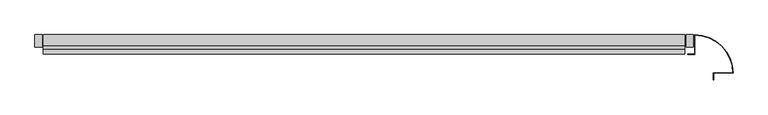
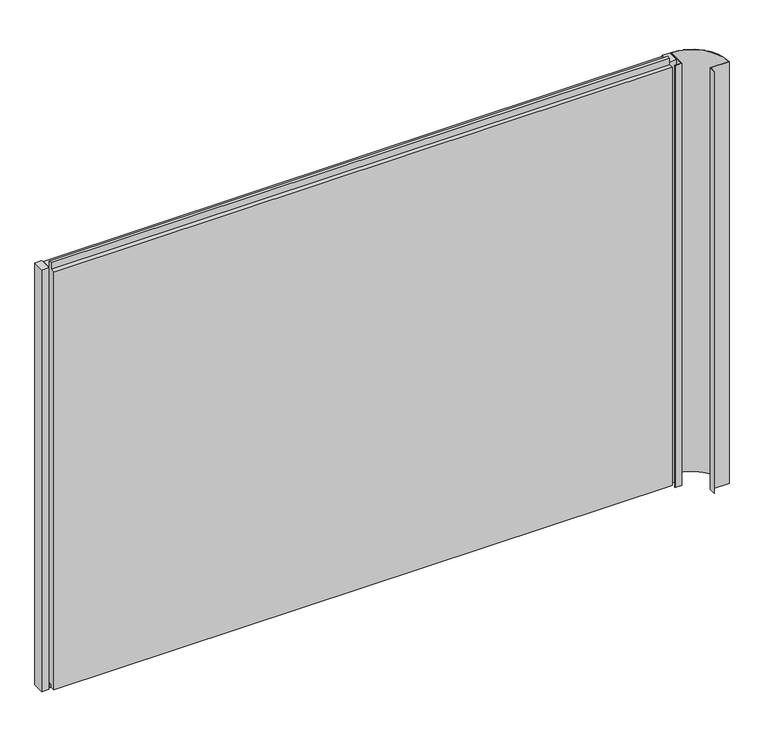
"""IFC4 building model written with IfcOpenShell, lengths in millimetres: plate geometry, Trimo_Qbiss Screen_Normal Panel-HORIZONTAL : HR - FB-F."""

from ifc_helpers import new_model, si_unit, point, frame, frame_2d, origin, place, context, project, spatial, polyline, circle_curve, trimmed, segment, composite_curve, outline, extrude, source, transform, mapped, element, save


def plate_aa8d7293(model_context):
    return source(origin(), model_context, "Body", "SweptSolid", [
        extrude(outline(polyline([(-840.5, 67.8978162), (-859.5, 67.8978162), (-859.5, 100.0), (-840.5, 100.0), (-840.5, 67.8978162)])), frame((0.0, 0.0, -1.0), z_axis=(0.0, 0.0, 1.0), x_axis=(1.0, 0.0, 0.0)), (0.0, 0.0, 1.0), 1200.0),
        extrude(outline(polyline([(847.0, 67.8978162), (828.0, 67.8978162), (828.0, 100.0), (847.0, 100.0), (847.0, 67.8978162)])), frame((0.0, 0.0, -1.0), z_axis=(0.0, 0.0, 1.0), x_axis=(1.0, 0.0, 0.0)), (0.0, 0.0, 1.0), 1200.0),
        extrude(outline(polyline([(71.0, 1196.0), (100.0, 1196.0), (100.0, 0.0), (72.0, 0.0), (72.0, 15.5), (62.0, 15.5), (62.0, 7.0), (50.0, 7.0), (50.0, 1196.0), (63.0, 1196.0), (63.0, 1214.5), (71.0, 1214.5), (71.0, 1196.0)])), frame((-837.5, 0.0, 0.0), z_axis=(1.0, 0.0, 0.0), x_axis=(0.0, 1.0, 0.0)), (0.0, 0.0, 1.0), 1662.5),
        extrude(outline(composite_curve([segment(polyline([(850.0, 50.0), (850.0, 100.0)]), True, "CONTINUOUS"), segment(trimmed(circle_curve(frame_2d((850.0, 0.0)), 100.0), [point((850.0, 100.0))], [point((950.0, 0.0))], False, "CARTESIAN"), True, "CONTINUOUS"), segment(polyline([(950.0, 0.0), (900.0, 0.0), (900.0, -17.5), (899.2, -17.5), (899.2, 0.8), (949.1967741, 0.8)]), True, "CONTINUOUS"), segment(trimmed(circle_curve(frame_2d((850.0, 0.0)), 99.2), [point((949.1967741, 0.8))], [point((850.8, 99.1967741))], True, "CARTESIAN"), True, "CONTINUOUS"), segment(polyline([(850.8, 99.1967741), (850.8, 49.2), (832.5, 49.2), (832.5, 50.0), (850.0, 50.0)]), True, "CONTINUOUS")], self_intersect=False)), frame((0.0, 0.0, -1.0), z_axis=(0.0, 0.0, 1.0), x_axis=(1.0, 0.0, 0.0)), (0.0, 0.0, 1.0), 1200.0),
    ])


if __name__ == "__main__":
    model = new_model("IFC4")
    model_context = context("Model", 3, world=origin())
    ifc_project = project(units=[si_unit("LENGTHUNIT", "METRE", prefix="MILLI")], contexts=[model_context])
    site = spatial("IfcSite", under=ifc_project)
    building = spatial("IfcBuilding", under=site)
    placement = place(None, origin())
    plate_shape = plate_aa8d7293(model_context)
    element("IfcPlate", 1, ObjectType="Trimo_Qbiss Screen_Normal Panel-HORIZONTAL : HR - FB-F", at=placement, inside=building, context=model_context, shape_type="MappedRepresentation", body=[
        mapped(plate_shape, transform((0.0, 0.0, 0.0), x_axis=(1.0, 0.0, 0.0), y_axis=(0.0, 1.0, 0.0), z_axis=(0.0, 0.0, 1.0))),
    ])
    save(model, "model.ifc")
